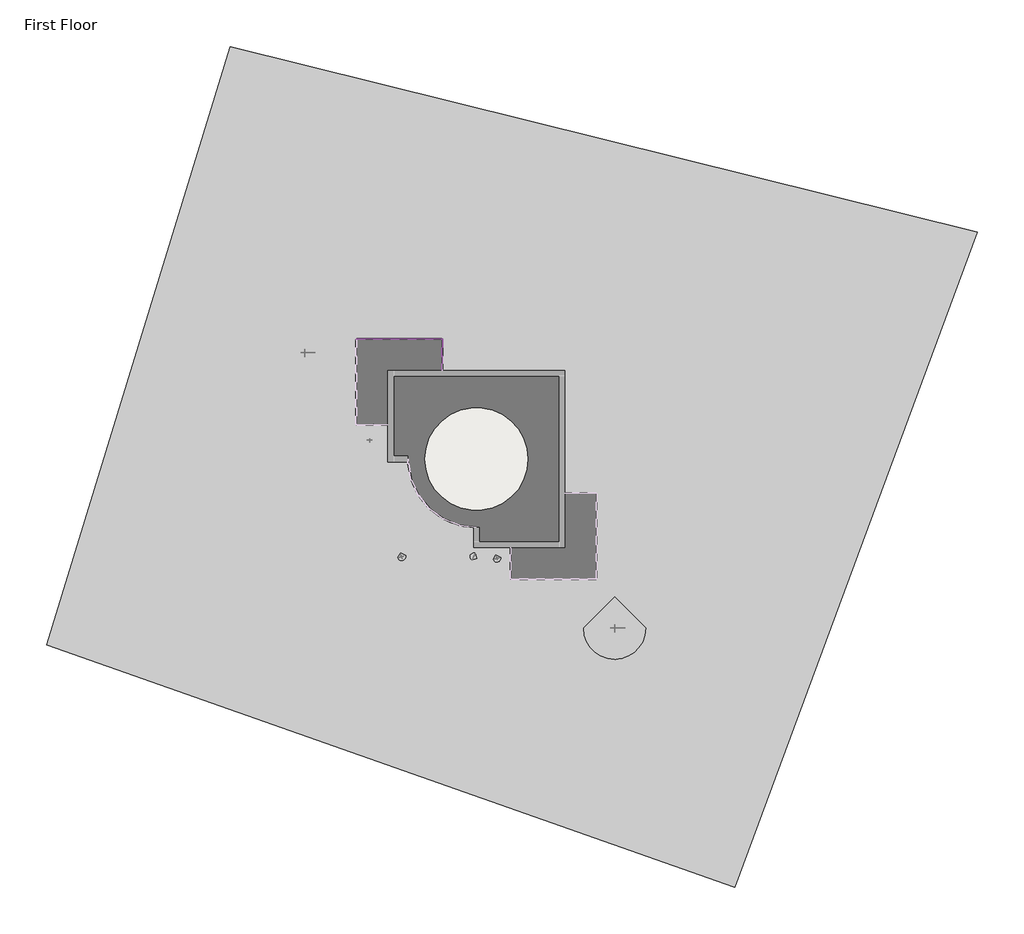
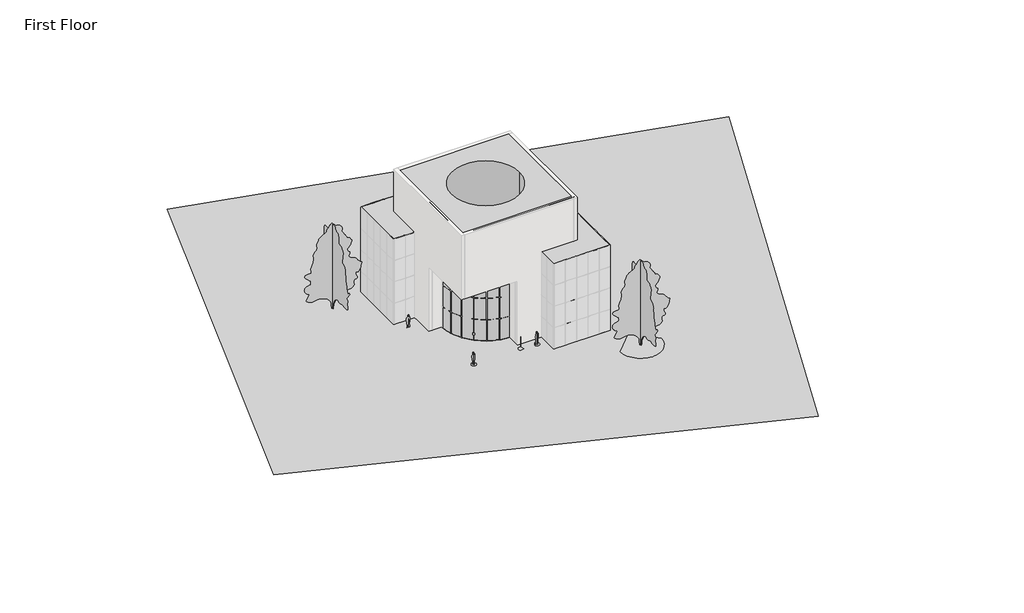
# One storey, part 4 of 4: 73 members, 24 plates, 7 proxies, 4 slabs, 2 geographic elements.
"""IFC4 building model written with IfcOpenShell, lengths in millimetres."""

from ifc_helpers import new_model, si_unit, point, frame, frame_2d, origin, origin_with_axes, place, context, project, spatial, polyline, circle_curve, trimmed, segment, composite_curve, outline, extrude, triangles, transform, mapped, element, save
from ifc_brep_helpers import plane_surface, cylinder_surface, revolved_surface, advanced_brep
from components import rpc_female_aec5a013, rpc_male_28878092, rpc_male_04e7faa4, rpc_tree_deciduous_lombardy_poplar_40_01077960, member_5e617a80, member_74941792, member_cbdb9076, member_7e523723, member_9fd3d903, member_6604d1e0, member_e0356dda, member_be0b070d, system_panel_glazed_9b7d687a, system_panel_glazed_9a901b4a, system_panel_glazed_2d5e1d3d, system_panel_glazed_37964ea6

model = new_model("IFC4")

# Units and contexts
model_context = context("Model", 3, world=origin())
ifc_project = project(units=[si_unit("LENGTHUNIT", "METRE", prefix="MILLI")], contexts=[model_context])

# Site, building, storey
site = spatial("IfcSite", under=ifc_project)
building = spatial("IfcBuilding", under=site)
storey = spatial("IfcBuildingStorey", under=building, Name="First Floor", Elevation=0.0)

# Proxies
placement = place(None, origin())
element("IfcBuildingElementProxy", 1, Name="Building Element Proxy", at=placement, inside=storey, context=model_context, shape_type="Tessellation", body=[
    triangles([(-24363.912854, 35996.493512, 0.0), (42060.135022, 19487.5930573, 0.0), (20501.4532654, -38779.1143616, 0.0), (-40678.5914429, -17220.432605, 0.0)], [[1, 4, 3], [3, 2, 1]], closed=False),
])
element("IfcBuildingElementProxy", 2, Name="Central Hall : Central Hall", ObjectType="Central Hall : Central Hall", at=placement, inside=storey, context=model_context, shape_type="AdvancedBrep", body=[
    advanced_brep(
    [(5148.8943843, 6934.0139224, 18288.0), (-10091.1056157, 6934.0139224, 18288.0), (-10091.1056157, -8305.9860776, 18288.0), (5148.8943843, -8305.9860776, 18288.0), (2100.8943843, -685.9860776, 18288.0), (-7043.1056157, -685.9860776, 18288.0), (5148.8943843, 6934.0139224, 0.0), (5148.8943843, -8305.9860776, 0.0), (-2471.1056157, -8305.9860776, 0.0), (-2471.1056157, -6781.9860776, 0.0), (-8567.1056157, -685.9860776, 0.0), (-10091.1056157, -685.9860776, 0.0), (-10091.1056157, 6934.0139224, 0.0), (-7043.1056157, -685.9860776, 0.0), (2100.8943843, -685.9860776, 0.0), (-10091.1056157, -685.9860776, 9144.0), (-10091.1056157, -8305.9860776, 9144.0), (-2471.1056157, -8305.9860776, 9144.0), (-2471.1056157, -6781.9860776, 9144.0), (-8567.1056157, -685.9860776, 9144.0)],
    [
        (0, 1),
        (1, 2),
        (2, 3),
        (3, 0),
        (4, 5, circle_curve(frame((-2471.1056157, -685.9860776, 18288.0), z_axis=(0.0, 0.0, -1.0), x_axis=(1.0, 0.0, 0.0)), 4572.0)),
        (5, 4, circle_curve(frame((-2471.1056157, -685.9860776, 18288.0), z_axis=(0.0, 0.0, -1.0), x_axis=(1.0, 0.0, 0.0)), 4572.0)),
        (6, 7),
        (7, 8),
        (8, 9),
        (9, 10, circle_curve(frame((-2471.1056157, -685.9860776, 0.0), z_axis=(0.0, 0.0, -1.0), x_axis=(1.0, 0.0, 0.0)), 6096.0)),
        (10, 11),
        (11, 12),
        (12, 6),
        (13, 14, circle_curve(frame((-2471.1056157, -685.9860776, 0.0), z_axis=(0.0, 0.0, 1.0), x_axis=(1.0, 0.0, 0.0)), 4572.0)),
        (14, 13, circle_curve(frame((-2471.1056157, -685.9860776, 0.0), z_axis=(0.0, 0.0, 1.0), x_axis=(1.0, 0.0, 0.0)), 4572.0)),
        (0, 6),
        (12, 1),
        (11, 15),
        (15, 16),
        (16, 2),
        (16, 17),
        (17, 8),
        (7, 3),
        (4, 14),
        (13, 5),
        (18, 17),
        (15, 19),
        (19, 18, circle_curve(frame((-2471.1056157, -685.9860776, 9144.0), z_axis=(0.0, 0.0, 1.0), x_axis=(1.0, 0.0, 0.0)), 6096.0)),
        (19, 10),
        (9, 18),
    ],
    [
        plane_surface(frame((-10091.1056157, 6934.0139224, 18288.0), z_axis=(0.0, 0.0, 1.0), x_axis=(-1.0, 0.0, 0.0))),
        plane_surface(frame((-10091.1056157, 6934.0139224, 0.0), z_axis=(0.0, 0.0, -1.0), x_axis=(1.0, 0.0, 0.0))),
        plane_surface(frame((5148.8943843, 6934.0139224, 18288.0), z_axis=(0.0, 1.0, 0.0), x_axis=(0.0, 0.0, -1.0))),
        plane_surface(frame((-10091.1056157, 6934.0139224, 18288.0), z_axis=(-1.0, 0.0, 0.0), x_axis=(0.0, 0.0, -1.0))),
        plane_surface(frame((-10091.1056157, -8305.9860776, 18288.0), z_axis=(0.0, -1.0, 0.0), x_axis=(0.0, 0.0, -1.0))),
        plane_surface(frame((5148.8943843, -8305.9860776, 18288.0), z_axis=(1.0, 0.0, 0.0), x_axis=(0.0, 0.0, -1.0))),
        revolved_surface(polyline([(2100.8943843, -685.9860776, 18288.0), (2100.8943843, -685.9860776, 0.0)]), (-2471.1056157, -685.9860776, 0.0), (0.0, 0.0, 1.0)),
        plane_surface(frame((3624.8943843, -685.9860776, 9144.0), z_axis=(0.0, 0.0, -1.0), x_axis=(0.0, -1.0, 0.0))),
        cylinder_surface(frame((-2471.1056157, -685.9860776, 0.0), z_axis=(0.0, 0.0, -1.0), x_axis=(1.0, 0.0, 0.0)), 6096.0),
        plane_surface(frame((-8567.1056157, -685.9860776, 9144.0), z_axis=(0.0, -1.0, 0.0), x_axis=(0.0, 0.0, -1.0))),
        plane_surface(frame((-2471.1056157, -8305.9860776, 9144.0), z_axis=(-1.0, 0.0, 0.0), x_axis=(0.0, 0.0, -1.0))),
    ],
    [
        (0, [[1, 2, 3, 4], [5, 6]]),
        (1, [[7, 8, 9, 10, 11, 12, 13], [14, 15]]),
        (2, [[-1, 16, -13, 17]]),
        (3, [[-2, -17, -12, 18, 19, 20]]),
        (4, [[-3, -20, 21, 22, -8, 23]]),
        (5, [[-4, -23, -7, -16]]),
        (6, [[24, -14, 25, -5]]),
        (6, [[-24, -6, -25, -15]]),
        (7, [[26, -21, -19, 27, 28]]),
        (8, [[-28, 29, -10, 30]]),
        (9, [[-27, -18, -11, -29]]),
        (10, [[-26, -30, -9, -22]]),
    ],
),
])
rpc_female_shape = rpc_female_aec5a013(model_context)
element("IfcBuildingElementProxy", 3, Name="RPC Female : Lisa", ObjectType="RPC Female : Lisa", at=placement, inside=storey, context=model_context, shape_type="MappedRepresentation", body=[
    mapped(rpc_female_shape, transform((-2715.5806157, -9369.6110776, 0.0), x_axis=(0.4705781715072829, 0.8823583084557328, 0.0), y_axis=(-0.8823583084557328, 0.4705781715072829, 0.0), z_axis=(0.0, 0.0, 1.0))),
])
rpc_male_shape = rpc_male_28878092(model_context)
element("IfcBuildingElementProxy", 4, Name="RPC Male : Dwayne", ObjectType="RPC Male : Dwayne", at=placement, inside=storey, context=model_context, shape_type="MappedRepresentation", body=[
    mapped(rpc_male_shape, transform((-11971.8346779, 990.4139224, 0.0), x_axis=(1.0, 0.0, 0.0), y_axis=(0.0, 1.0, 0.0), z_axis=(0.0, 0.0, 1.0))),
])
element("IfcBuildingElementProxy", 5, Name="RPC Male : Dwayne", ObjectType="RPC Male : Dwayne", at=placement, inside=storey, context=model_context, shape_type="MappedRepresentation", body=[
    mapped(rpc_male_shape, transform((-636.197019, -9522.0110776, 0.0), x_axis=(-0.9659258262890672, -0.2588190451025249, 0.0), y_axis=(0.2588190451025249, -0.9659258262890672, 0.0), z_axis=(0.0, 0.0, 1.0))),
])
rpc_male_2_shape = rpc_male_04e7faa4(model_context)
element("IfcBuildingElementProxy", 6, Name="RPC Male : Jay", ObjectType="RPC Male : Jay", at=placement, inside=storey, context=model_context, shape_type="MappedRepresentation", body=[
    mapped(rpc_male_2_shape, transform((-9110.0182745, -9369.6110776, 0.0), x_axis=(-0.9659258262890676, -0.2588190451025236, 0.0), y_axis=(0.2588190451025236, -0.9659258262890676, 0.0), z_axis=(0.0, 0.0, 1.0))),
])
element("IfcBuildingElementProxy", 7, Name="Wings : Wings", ObjectType="Wings : Wings", at=placement, inside=storey, context=model_context, shape_type="SweptSolid", body=[
    extrude(outline(polyline([(8196.8943843, -3733.9860776), (8196.8943843, -11353.9860776), (576.8943843, -11353.9860776), (576.8943843, -8305.9860776), (5148.8943843, -8305.9860776), (5148.8943843, -3733.9860776), (8196.8943843, -3733.9860776)])), origin_with_axes(), (0.0, 0.0, 1.0), 12192.0),
    extrude(outline(polyline([(-5519.1056157, 9982.0139224), (-5519.1056157, 6934.0139224), (-10091.1056157, 6934.0139224), (-10091.1056157, 2362.0139224), (-13139.1056157, 2362.0139224), (-13139.1056157, 9982.0139224), (-5519.1056157, 9982.0139224)])), origin_with_axes(), (0.0, 0.0, 1.0), 12192.0),
])

# Geographic elements
rpc_tree_deciduous_lombardy_poplar_40_shape = rpc_tree_deciduous_lombardy_poplar_40_01077960(model_context)
element("IfcGeographicElement", 8, ObjectType="RPC Tree - Deciduous : Lombardy Poplar - 40'", at=placement, inside=storey, context=model_context, shape_type="MappedRepresentation", body=[
    mapped(rpc_tree_deciduous_lombardy_poplar_40_shape, transform((-17711.1056157, 8762.8139224, 0.0), x_axis=(1.0, 0.0, 0.0), y_axis=(0.0, 1.0, 0.0), z_axis=(0.0, 0.0, 1.0))),
])
element("IfcGeographicElement", 9, ObjectType="RPC Tree - Deciduous : Lombardy Poplar - 40'", at=placement, inside=storey, context=model_context, shape_type="MappedRepresentation", body=[
    mapped(rpc_tree_deciduous_lombardy_poplar_40_shape, transform((9813.886646, -15719.3896773, 0.0), x_axis=(1.0, 0.0, 0.0), y_axis=(0.0, 1.0, 0.0), z_axis=(0.0, 0.0, 1.0))),
])

# Members
member_shape = member_5e617a80(model_context)
element("IfcMember", 10, ObjectType="Rectangular Mullion : 1\" Square", at=placement, inside=storey, context=model_context, shape_type="MappedRepresentation", body=[
    mapped(member_shape, transform((-7030.4056157, 9982.0139224, 3048.0), x_axis=(0.0, 0.0, 1.0), y_axis=(0.0, 1.0, 0.0), z_axis=(-1.0, 0.0, 0.0))),
])
element("IfcMember", 11, ObjectType="Rectangular Mullion : 1\" Square", at=placement, inside=storey, context=model_context, shape_type="MappedRepresentation", body=[
    mapped(member_shape, transform((-13113.7056157, 9982.0139224, 3048.0), x_axis=(0.0, 0.0, 1.0), y_axis=(0.0, 1.0, 0.0), z_axis=(-1.0, 0.0, 0.0))),
])
element("IfcMember", 12, ObjectType="Rectangular Mullion : 1\" Square", at=placement, inside=storey, context=model_context, shape_type="MappedRepresentation", body=[
    mapped(member_shape, transform((-7030.4056157, 9982.0139224, 6096.0), x_axis=(0.0, 0.0, 1.0), y_axis=(0.0, 1.0, 0.0), z_axis=(-1.0, 0.0, 0.0))),
])
element("IfcMember", 13, ObjectType="Rectangular Mullion : 1\" Square", at=placement, inside=storey, context=model_context, shape_type="MappedRepresentation", body=[
    mapped(member_shape, transform((-13113.7056157, 9982.0139224, 6096.0), x_axis=(0.0, 0.0, 1.0), y_axis=(0.0, 1.0, 0.0), z_axis=(-1.0, 0.0, 0.0))),
])
element("IfcMember", 14, ObjectType="Rectangular Mullion : 1\" Square", at=placement, inside=storey, context=model_context, shape_type="MappedRepresentation", body=[
    mapped(member_shape, transform((-7030.4056157, 9982.0139224, 9144.0), x_axis=(0.0, 0.0, 1.0), y_axis=(0.0, 1.0, 0.0), z_axis=(-1.0, 0.0, 0.0))),
])
element("IfcMember", 15, ObjectType="Rectangular Mullion : 1\" Square", at=placement, inside=storey, context=model_context, shape_type="MappedRepresentation", body=[
    mapped(member_shape, transform((-13113.7056157, 9982.0139224, 9144.0), x_axis=(0.0, 0.0, 1.0), y_axis=(0.0, 1.0, 0.0), z_axis=(-1.0, 0.0, 0.0))),
])
member_2_shape = member_74941792(model_context)
element("IfcMember", 16, ObjectType="Rectangular Mullion : 1\" Square", at=placement, inside=storey, context=model_context, shape_type="MappedRepresentation", body=[
    mapped(member_2_shape, transform((-13113.7056157, 9982.0139224, 12192.0), x_axis=(0.0, 0.0, 1.0), y_axis=(0.0, 1.0, 0.0), z_axis=(-1.0, 0.0, 0.0))),
])
element("IfcMember", 17, ObjectType="Rectangular Mullion : 1\" Square", at=placement, inside=storey, context=model_context, shape_type="MappedRepresentation", body=[
    mapped(member_2_shape, transform((-7030.4056157, 9982.0139224, 12192.0), x_axis=(0.0, 0.0, 1.0), y_axis=(0.0, 1.0, 0.0), z_axis=(-1.0, 0.0, 0.0))),
])
member_3_shape = member_cbdb9076(model_context)
element("IfcMember", 18, ObjectType="Rectangular Mullion : 1\" Square", at=placement, inside=storey, context=model_context, shape_type="MappedRepresentation", body=[
    mapped(member_3_shape, transform((-8567.1056157, 9982.0139224, 6096.0), x_axis=(-1.0, 0.0, 0.0), y_axis=(0.0, 1.0, 0.0), z_axis=(0.0, 0.0, -1.0))),
])
element("IfcMember", 19, ObjectType="Rectangular Mullion : 1\" Square", at=placement, inside=storey, context=model_context, shape_type="MappedRepresentation", body=[
    mapped(member_3_shape, transform((-10091.1056157, 9982.0139224, 3048.0), x_axis=(-1.0, 0.0, 0.0), y_axis=(0.0, 1.0, 0.0), z_axis=(0.0, 0.0, -1.0))),
])
element("IfcMember", 20, ObjectType="Rectangular Mullion : 1\" Square", at=placement, inside=storey, context=model_context, shape_type="MappedRepresentation", body=[
    mapped(member_3_shape, transform((-10091.1056157, 9982.0139224, 6096.0), x_axis=(-1.0, 0.0, 0.0), y_axis=(0.0, 1.0, 0.0), z_axis=(0.0, 0.0, -1.0))),
])
element("IfcMember", 21, ObjectType="Rectangular Mullion : 1\" Square", at=placement, inside=storey, context=model_context, shape_type="MappedRepresentation", body=[
    mapped(member_3_shape, transform((-11615.1056157, 9982.0139224, 3048.0), x_axis=(-1.0, 0.0, 0.0), y_axis=(0.0, 1.0, 0.0), z_axis=(0.0, 0.0, -1.0))),
])
element("IfcMember", 22, ObjectType="Rectangular Mullion : 1\" Square", at=placement, inside=storey, context=model_context, shape_type="MappedRepresentation", body=[
    mapped(member_3_shape, transform((-11615.1056157, 9982.0139224, 6096.0), x_axis=(-1.0, 0.0, 0.0), y_axis=(0.0, 1.0, 0.0), z_axis=(0.0, 0.0, -1.0))),
])
element("IfcMember", 23, ObjectType="Rectangular Mullion : 1\" Square", at=placement, inside=storey, context=model_context, shape_type="MappedRepresentation", body=[
    mapped(member_3_shape, transform((-7043.1056157, 9982.0139224, 3048.0), x_axis=(-1.0, 0.0, 0.0), y_axis=(0.0, 1.0, 0.0), z_axis=(0.0, 0.0, -1.0))),
])
element("IfcMember", 24, ObjectType="Rectangular Mullion : 1\" Square", at=placement, inside=storey, context=model_context, shape_type="MappedRepresentation", body=[
    mapped(member_3_shape, transform((-7043.1056157, 9982.0139224, 6096.0), x_axis=(-1.0, 0.0, 0.0), y_axis=(0.0, 1.0, 0.0), z_axis=(0.0, 0.0, -1.0))),
])
element("IfcMember", 25, ObjectType="Rectangular Mullion : 1\" Square", at=placement, inside=storey, context=model_context, shape_type="MappedRepresentation", body=[
    mapped(member_3_shape, transform((-8567.1056157, 9982.0139224, 3048.0), x_axis=(-1.0, 0.0, 0.0), y_axis=(0.0, 1.0, 0.0), z_axis=(0.0, 0.0, -1.0))),
])
element("IfcMember", 26, ObjectType="Rectangular Mullion : 1\" Square", at=placement, inside=storey, context=model_context, shape_type="MappedRepresentation", body=[
    mapped(member_3_shape, transform((-5519.1056157, 9978.8389224, 3048.0), x_axis=(0.0, 1.0, 0.0), y_axis=(1.0, 0.0, 0.0), z_axis=(0.0, 0.0, -1.0))),
])
element("IfcMember", 27, ObjectType="Rectangular Mullion : 1\" Square", at=placement, inside=storey, context=model_context, shape_type="MappedRepresentation", body=[
    mapped(member_3_shape, transform((-5519.1056157, 9978.8389224, 6096.0), x_axis=(0.0, 1.0, 0.0), y_axis=(1.0, 0.0, 0.0), z_axis=(0.0, 0.0, -1.0))),
])
element("IfcMember", 28, ObjectType="Rectangular Mullion : 1\" Square", at=placement, inside=storey, context=model_context, shape_type="MappedRepresentation", body=[
    mapped(member_3_shape, transform((-5519.1056157, 8454.8389224, 3048.0), x_axis=(0.0, 1.0, 0.0), y_axis=(1.0, 0.0, 0.0), z_axis=(0.0, 0.0, -1.0))),
])
element("IfcMember", 29, ObjectType="Rectangular Mullion : 1\" Square", at=placement, inside=storey, context=model_context, shape_type="MappedRepresentation", body=[
    mapped(member_3_shape, transform((-5519.1056157, 8454.8389224, 6096.0), x_axis=(0.0, 1.0, 0.0), y_axis=(1.0, 0.0, 0.0), z_axis=(0.0, 0.0, -1.0))),
])
element("IfcMember", 30, ObjectType="Rectangular Mullion : 1\" Square", at=placement, inside=storey, context=model_context, shape_type="MappedRepresentation", body=[
    mapped(member_3_shape, transform((-8567.1056157, 9982.0139224, 9144.0), x_axis=(-1.0, 0.0, 0.0), y_axis=(0.0, 1.0, 0.0), z_axis=(0.0, 0.0, -1.0))),
])
element("IfcMember", 31, ObjectType="Rectangular Mullion : 1\" Square", at=placement, inside=storey, context=model_context, shape_type="MappedRepresentation", body=[
    mapped(member_3_shape, transform((-10091.1056157, 9982.0139224, 9144.0), x_axis=(-1.0, 0.0, 0.0), y_axis=(0.0, 1.0, 0.0), z_axis=(0.0, 0.0, -1.0))),
])
element("IfcMember", 32, ObjectType="Rectangular Mullion : 1\" Square", at=placement, inside=storey, context=model_context, shape_type="MappedRepresentation", body=[
    mapped(member_3_shape, transform((-11615.1056157, 9982.0139224, 9144.0), x_axis=(-1.0, 0.0, 0.0), y_axis=(0.0, 1.0, 0.0), z_axis=(0.0, 0.0, -1.0))),
])
element("IfcMember", 33, ObjectType="Rectangular Mullion : 1\" Square", at=placement, inside=storey, context=model_context, shape_type="MappedRepresentation", body=[
    mapped(member_3_shape, transform((-7043.1056157, 9982.0139224, 9144.0), x_axis=(-1.0, 0.0, 0.0), y_axis=(0.0, 1.0, 0.0), z_axis=(0.0, 0.0, -1.0))),
])
element("IfcMember", 34, ObjectType="Rectangular Mullion : 1\" Square", at=placement, inside=storey, context=model_context, shape_type="MappedRepresentation", body=[
    mapped(member_3_shape, transform((-5519.1056157, 9978.8389224, 9144.0), x_axis=(0.0, 1.0, 0.0), y_axis=(1.0, 0.0, 0.0), z_axis=(0.0, 0.0, -1.0))),
])
element("IfcMember", 35, ObjectType="Rectangular Mullion : 1\" Square", at=placement, inside=storey, context=model_context, shape_type="MappedRepresentation", body=[
    mapped(member_3_shape, transform((-5519.1056157, 8454.8389224, 9144.0), x_axis=(0.0, 1.0, 0.0), y_axis=(1.0, 0.0, 0.0), z_axis=(0.0, 0.0, -1.0))),
])
element("IfcMember", 36, ObjectType="Rectangular Mullion : 1\" Square", at=placement, inside=storey, context=model_context, shape_type="MappedRepresentation", body=[
    mapped(member_3_shape, transform((-7043.1056157, 9982.0139224, 0.0), x_axis=(-1.0, 0.0, 0.0), y_axis=(0.0, 1.0, 0.0), z_axis=(0.0, 0.0, -1.0))),
])
element("IfcMember", 37, ObjectType="Rectangular Mullion : 1\" Square", at=placement, inside=storey, context=model_context, shape_type="MappedRepresentation", body=[
    mapped(member_3_shape, transform((-8567.1056157, 9982.0139224, 0.0), x_axis=(-1.0, 0.0, 0.0), y_axis=(0.0, 1.0, 0.0), z_axis=(0.0, 0.0, -1.0))),
])
element("IfcMember", 38, ObjectType="Rectangular Mullion : 1\" Square", at=placement, inside=storey, context=model_context, shape_type="MappedRepresentation", body=[
    mapped(member_3_shape, transform((-10091.1056157, 9982.0139224, 0.0), x_axis=(-1.0, 0.0, 0.0), y_axis=(0.0, 1.0, 0.0), z_axis=(0.0, 0.0, -1.0))),
])
element("IfcMember", 39, ObjectType="Rectangular Mullion : 1\" Square", at=placement, inside=storey, context=model_context, shape_type="MappedRepresentation", body=[
    mapped(member_3_shape, transform((-11615.1056157, 9982.0139224, 0.0), x_axis=(-1.0, 0.0, 0.0), y_axis=(0.0, 1.0, 0.0), z_axis=(0.0, 0.0, -1.0))),
])
element("IfcMember", 40, ObjectType="Rectangular Mullion : 1\" Square", at=placement, inside=storey, context=model_context, shape_type="MappedRepresentation", body=[
    mapped(member_3_shape, transform((-5519.1056157, 9978.8389224, 0.0), x_axis=(0.0, 1.0, 0.0), y_axis=(1.0, 0.0, 0.0), z_axis=(0.0, 0.0, -1.0))),
])
element("IfcMember", 41, ObjectType="Rectangular Mullion : 1\" Square", at=placement, inside=storey, context=model_context, shape_type="MappedRepresentation", body=[
    mapped(member_3_shape, transform((-5519.1056157, 8454.8389224, 0.0), x_axis=(0.0, 1.0, 0.0), y_axis=(1.0, 0.0, 0.0), z_axis=(0.0, 0.0, -1.0))),
])
element("IfcMember", 42, ObjectType="Rectangular Mullion : 1\" Square", at=placement, inside=storey, context=model_context, shape_type="MappedRepresentation", body=[
    mapped(member_2_shape, transform((-5544.5056157, 9982.0139224, 0.0), x_axis=(0.0, 0.0, -1.0), y_axis=(0.0, 1.0, 0.0), z_axis=(1.0, 0.0, 0.0))),
])
element("IfcMember", 43, ObjectType="Rectangular Mullion : 1\" Square", at=placement, inside=storey, context=model_context, shape_type="MappedRepresentation", body=[
    mapped(member_2_shape, transform((-11627.8056157, 9982.0139224, 0.0), x_axis=(0.0, 0.0, -1.0), y_axis=(0.0, 1.0, 0.0), z_axis=(1.0, 0.0, 0.0))),
])
member_4_shape = member_7e523723(model_context)
element("IfcMember", 44, ObjectType="Rectangular Mullion : 1\" Square", at=placement, inside=storey, context=model_context, shape_type="MappedRepresentation", body=[
    mapped(member_4_shape, transform((-5519.1056157, 9982.0139224, 12192.0), x_axis=(1.0, 0.0, 0.0), y_axis=(0.0, 1.0, 0.0), z_axis=(0.0, 0.0, 1.0))),
])
element("IfcMember", 45, ObjectType="Rectangular Mullion : 1\" Square", at=placement, inside=storey, context=model_context, shape_type="MappedRepresentation", body=[
    mapped(member_4_shape, transform((-13139.1056157, 9982.0139224, 3048.0), x_axis=(-1.0, 0.0, 0.0), y_axis=(0.0, 1.0, 0.0), z_axis=(0.0, 0.0, -1.0))),
])
element("IfcMember", 46, ObjectType="Rectangular Mullion : 1\" Square", at=placement, inside=storey, context=model_context, shape_type="MappedRepresentation", body=[
    mapped(member_4_shape, transform((-13139.1056157, 9982.0139224, 6096.0), x_axis=(-1.0, 0.0, 0.0), y_axis=(0.0, 1.0, 0.0), z_axis=(0.0, 0.0, -1.0))),
])
element("IfcMember", 47, ObjectType="Rectangular Mullion : 1\" Square", at=placement, inside=storey, context=model_context, shape_type="MappedRepresentation", body=[
    mapped(member_4_shape, transform((-13139.1056157, 9982.0139224, 9144.0), x_axis=(-1.0, 0.0, 0.0), y_axis=(0.0, 1.0, 0.0), z_axis=(0.0, 0.0, -1.0))),
])
element("IfcMember", 48, ObjectType="Rectangular Mullion : 1\" Square", at=placement, inside=storey, context=model_context, shape_type="MappedRepresentation", body=[
    mapped(member_4_shape, transform((-13139.1056157, 9982.0139224, 3048.0), x_axis=(0.0, 1.0, 0.0), y_axis=(-1.0, 0.0, 0.0), z_axis=(0.0, 0.0, 1.0))),
])
element("IfcMember", 49, ObjectType="Rectangular Mullion : 1\" Square", at=placement, inside=storey, context=model_context, shape_type="MappedRepresentation", body=[
    mapped(member_4_shape, transform((-5519.1056157, 9982.0139224, 3048.0), x_axis=(1.0, 0.0, 0.0), y_axis=(0.0, 1.0, 0.0), z_axis=(0.0, 0.0, 1.0))),
])
element("IfcMember", 50, ObjectType="Rectangular Mullion : 1\" Square", at=placement, inside=storey, context=model_context, shape_type="MappedRepresentation", body=[
    mapped(member_4_shape, transform((-13139.1056157, 9982.0139224, 6096.0), x_axis=(0.0, 1.0, 0.0), y_axis=(-1.0, 0.0, 0.0), z_axis=(0.0, 0.0, 1.0))),
])
element("IfcMember", 51, ObjectType="Rectangular Mullion : 1\" Square", at=placement, inside=storey, context=model_context, shape_type="MappedRepresentation", body=[
    mapped(member_4_shape, transform((-13139.1056157, 9982.0139224, 9144.0), x_axis=(0.0, 1.0, 0.0), y_axis=(-1.0, 0.0, 0.0), z_axis=(0.0, 0.0, 1.0))),
])
element("IfcMember", 52, ObjectType="Rectangular Mullion : 1\" Square", at=placement, inside=storey, context=model_context, shape_type="MappedRepresentation", body=[
    mapped(member_4_shape, transform((-5519.1056157, 9982.0139224, 6096.0), x_axis=(1.0, 0.0, 0.0), y_axis=(0.0, 1.0, 0.0), z_axis=(0.0, 0.0, 1.0))),
])
element("IfcMember", 53, ObjectType="Rectangular Mullion : 1\" Square", at=placement, inside=storey, context=model_context, shape_type="MappedRepresentation", body=[
    mapped(member_4_shape, transform((-5519.1056157, 9982.0139224, 9144.0), x_axis=(1.0, 0.0, 0.0), y_axis=(0.0, 1.0, 0.0), z_axis=(0.0, 0.0, 1.0))),
])
element("IfcMember", 54, ObjectType="Rectangular Mullion : 1\" Square", at=placement, inside=storey, context=model_context, shape_type="MappedRepresentation", body=[
    mapped(member_4_shape, transform((-13139.1056157, 9982.0139224, 0.0), x_axis=(-1.0, 0.0, 0.0), y_axis=(0.0, 1.0, 0.0), z_axis=(0.0, 0.0, -1.0))),
])
member_5_shape = member_9fd3d903(model_context)
element("IfcMember", 55, ObjectType="Rectangular Mullion : 1\" Square", at=placement, inside=storey, context=model_context, shape_type="MappedRepresentation", body=[
    mapped(member_5_shape, transform((-8554.4056157, 9982.0139224, 3048.0), x_axis=(0.0, 0.0, 1.0), y_axis=(0.0, 1.0, 0.0), z_axis=(-1.0, 0.0, 0.0))),
])
element("IfcMember", 56, ObjectType="Rectangular Mullion : 1\" Square", at=placement, inside=storey, context=model_context, shape_type="MappedRepresentation", body=[
    mapped(member_5_shape, transform((-10078.4056157, 9982.0139224, 3048.0), x_axis=(0.0, 0.0, 1.0), y_axis=(0.0, 1.0, 0.0), z_axis=(-1.0, 0.0, 0.0))),
])
element("IfcMember", 57, ObjectType="Rectangular Mullion : 1\" Square", at=placement, inside=storey, context=model_context, shape_type="MappedRepresentation", body=[
    mapped(member_5_shape, transform((-11602.4056157, 9982.0139224, 3048.0), x_axis=(0.0, 0.0, 1.0), y_axis=(0.0, 1.0, 0.0), z_axis=(-1.0, 0.0, 0.0))),
])
element("IfcMember", 58, ObjectType="Rectangular Mullion : 1\" Square", at=placement, inside=storey, context=model_context, shape_type="MappedRepresentation", body=[
    mapped(member_5_shape, transform((-8554.4056157, 9982.0139224, 6096.0), x_axis=(0.0, 0.0, 1.0), y_axis=(0.0, 1.0, 0.0), z_axis=(-1.0, 0.0, 0.0))),
])
element("IfcMember", 59, ObjectType="Rectangular Mullion : 1\" Square", at=placement, inside=storey, context=model_context, shape_type="MappedRepresentation", body=[
    mapped(member_5_shape, transform((-10078.4056157, 9982.0139224, 6096.0), x_axis=(0.0, 0.0, 1.0), y_axis=(0.0, 1.0, 0.0), z_axis=(-1.0, 0.0, 0.0))),
])
element("IfcMember", 60, ObjectType="Rectangular Mullion : 1\" Square", at=placement, inside=storey, context=model_context, shape_type="MappedRepresentation", body=[
    mapped(member_5_shape, transform((-11602.4056157, 9982.0139224, 6096.0), x_axis=(0.0, 0.0, 1.0), y_axis=(0.0, 1.0, 0.0), z_axis=(-1.0, 0.0, 0.0))),
])
element("IfcMember", 61, ObjectType="Rectangular Mullion : 1\" Square", at=placement, inside=storey, context=model_context, shape_type="MappedRepresentation", body=[
    mapped(member_5_shape, transform((-8554.4056157, 9982.0139224, 9144.0), x_axis=(0.0, 0.0, 1.0), y_axis=(0.0, 1.0, 0.0), z_axis=(-1.0, 0.0, 0.0))),
])
element("IfcMember", 62, ObjectType="Rectangular Mullion : 1\" Square", at=placement, inside=storey, context=model_context, shape_type="MappedRepresentation", body=[
    mapped(member_5_shape, transform((-10078.4056157, 9982.0139224, 9144.0), x_axis=(0.0, 0.0, 1.0), y_axis=(0.0, 1.0, 0.0), z_axis=(-1.0, 0.0, 0.0))),
])
element("IfcMember", 63, ObjectType="Rectangular Mullion : 1\" Square", at=placement, inside=storey, context=model_context, shape_type="MappedRepresentation", body=[
    mapped(member_5_shape, transform((-11602.4056157, 9982.0139224, 9144.0), x_axis=(0.0, 0.0, 1.0), y_axis=(0.0, 1.0, 0.0), z_axis=(-1.0, 0.0, 0.0))),
])
element("IfcMember", 64, ObjectType="Rectangular Mullion : 1\" Square", at=placement, inside=storey, context=model_context, shape_type="MappedRepresentation", body=[
    mapped(member_5_shape, transform((-5519.1056157, 9966.1389224, 3048.0), x_axis=(0.0, 0.0, 1.0), y_axis=(1.0, 0.0, 0.0), z_axis=(0.0, 1.0, 0.0))),
])
element("IfcMember", 65, ObjectType="Rectangular Mullion : 1\" Square", at=placement, inside=storey, context=model_context, shape_type="MappedRepresentation", body=[
    mapped(member_5_shape, transform((-5519.1056157, 9966.1389224, 6096.0), x_axis=(0.0, 0.0, 1.0), y_axis=(1.0, 0.0, 0.0), z_axis=(0.0, 1.0, 0.0))),
])
element("IfcMember", 66, ObjectType="Rectangular Mullion : 1\" Square", at=placement, inside=storey, context=model_context, shape_type="MappedRepresentation", body=[
    mapped(member_5_shape, transform((-5519.1056157, 9966.1389224, 9144.0), x_axis=(0.0, 0.0, 1.0), y_axis=(1.0, 0.0, 0.0), z_axis=(0.0, 1.0, 0.0))),
])
member_6_shape = member_6604d1e0(model_context)
element("IfcMember", 67, ObjectType="Rectangular Mullion : 1\" Square", at=placement, inside=storey, context=model_context, shape_type="MappedRepresentation", body=[
    mapped(member_6_shape, transform((-8554.4056157, 9982.0139224, 12192.0), x_axis=(0.0, 0.0, 1.0), y_axis=(0.0, 1.0, 0.0), z_axis=(-1.0, 0.0, 0.0))),
])
element("IfcMember", 68, ObjectType="Rectangular Mullion : 1\" Square", at=placement, inside=storey, context=model_context, shape_type="MappedRepresentation", body=[
    mapped(member_6_shape, transform((-10078.4056157, 9982.0139224, 12192.0), x_axis=(0.0, 0.0, 1.0), y_axis=(0.0, 1.0, 0.0), z_axis=(-1.0, 0.0, 0.0))),
])
element("IfcMember", 69, ObjectType="Rectangular Mullion : 1\" Square", at=placement, inside=storey, context=model_context, shape_type="MappedRepresentation", body=[
    mapped(member_6_shape, transform((-11602.4056157, 9982.0139224, 12192.0), x_axis=(0.0, 0.0, 1.0), y_axis=(0.0, 1.0, 0.0), z_axis=(-1.0, 0.0, 0.0))),
])
element("IfcMember", 70, ObjectType="Rectangular Mullion : 1\" Square", at=placement, inside=storey, context=model_context, shape_type="MappedRepresentation", body=[
    mapped(member_6_shape, transform((-5519.1056157, 9966.1389224, 12192.0), x_axis=(0.0, 0.0, 1.0), y_axis=(1.0, 0.0, 0.0), z_axis=(0.0, 1.0, 0.0))),
])
element("IfcMember", 71, ObjectType="Rectangular Mullion : 1\" Square", at=placement, inside=storey, context=model_context, shape_type="MappedRepresentation", body=[
    mapped(member_6_shape, transform((-7055.8056157, 9982.0139224, 0.0), x_axis=(0.0, 0.0, -1.0), y_axis=(0.0, 1.0, 0.0), z_axis=(1.0, 0.0, 0.0))),
])
element("IfcMember", 72, ObjectType="Rectangular Mullion : 1\" Square", at=placement, inside=storey, context=model_context, shape_type="MappedRepresentation", body=[
    mapped(member_6_shape, transform((-8579.8056157, 9982.0139224, 0.0), x_axis=(0.0, 0.0, -1.0), y_axis=(0.0, 1.0, 0.0), z_axis=(1.0, 0.0, 0.0))),
])
element("IfcMember", 73, ObjectType="Rectangular Mullion : 1\" Square", at=placement, inside=storey, context=model_context, shape_type="MappedRepresentation", body=[
    mapped(member_6_shape, transform((-10103.8056157, 9982.0139224, 0.0), x_axis=(0.0, 0.0, -1.0), y_axis=(0.0, 1.0, 0.0), z_axis=(1.0, 0.0, 0.0))),
])
element("IfcMember", 74, ObjectType="Rectangular Mullion : 1\" Square", at=placement, inside=storey, context=model_context, shape_type="MappedRepresentation", body=[
    mapped(member_6_shape, transform((-5519.1056157, 8467.5389224, 0.0), x_axis=(0.0, 0.0, -1.0), y_axis=(1.0, 0.0, 0.0), z_axis=(0.0, -1.0, 0.0))),
])
member_7_shape = member_e0356dda(model_context)
element("IfcMember", 75, ObjectType="Rectangular Mullion : 1\" Square", at=placement, inside=storey, context=model_context, shape_type="MappedRepresentation", body=[
    mapped(member_7_shape, transform((-5519.1056157, 8442.1389224, 3048.0), x_axis=(0.0, 0.0, 1.0), y_axis=(1.0, 0.0, 0.0), z_axis=(0.0, 1.0, 0.0))),
])
element("IfcMember", 76, ObjectType="Rectangular Mullion : 1\" Square", at=placement, inside=storey, context=model_context, shape_type="MappedRepresentation", body=[
    mapped(member_7_shape, transform((-5519.1056157, 8442.1389224, 6096.0), x_axis=(0.0, 0.0, 1.0), y_axis=(1.0, 0.0, 0.0), z_axis=(0.0, 1.0, 0.0))),
])
element("IfcMember", 77, ObjectType="Rectangular Mullion : 1\" Square", at=placement, inside=storey, context=model_context, shape_type="MappedRepresentation", body=[
    mapped(member_7_shape, transform((-5519.1056157, 8442.1389224, 9144.0), x_axis=(0.0, 0.0, 1.0), y_axis=(1.0, 0.0, 0.0), z_axis=(0.0, 1.0, 0.0))),
])
member_8_shape = member_be0b070d(model_context)
element("IfcMember", 78, ObjectType="Rectangular Mullion : 1\" Square", at=placement, inside=storey, context=model_context, shape_type="MappedRepresentation", body=[
    mapped(member_8_shape, transform((-5519.1056157, 8442.1389224, 12192.0), x_axis=(0.0, 0.0, 1.0), y_axis=(1.0, 0.0, 0.0), z_axis=(0.0, 1.0, 0.0))),
])
element("IfcMember", 79, ObjectType="Rectangular Mullion : 1\" Square", at=placement, inside=storey, context=model_context, shape_type="MappedRepresentation", body=[
    mapped(member_4_shape, transform((-5519.1056157, 9982.0139224, 3048.0), x_axis=(0.0, 1.0, 0.0), y_axis=(1.0, 0.0, 0.0), z_axis=(0.0, 0.0, -1.0))),
])
element("IfcMember", 80, ObjectType="Rectangular Mullion : 1\" Square", at=placement, inside=storey, context=model_context, shape_type="MappedRepresentation", body=[
    mapped(member_4_shape, transform((-5519.1056157, 9982.0139224, 6096.0), x_axis=(0.0, 1.0, 0.0), y_axis=(1.0, 0.0, 0.0), z_axis=(0.0, 0.0, -1.0))),
])
element("IfcMember", 81, ObjectType="Rectangular Mullion : 1\" Square", at=placement, inside=storey, context=model_context, shape_type="MappedRepresentation", body=[
    mapped(member_4_shape, transform((-5519.1056157, 9982.0139224, 9144.0), x_axis=(0.0, 1.0, 0.0), y_axis=(1.0, 0.0, 0.0), z_axis=(0.0, 0.0, -1.0))),
])
element("IfcMember", 82, ObjectType="Rectangular Mullion : 1\" Square", at=placement, inside=storey, context=model_context, shape_type="MappedRepresentation", body=[
    mapped(member_4_shape, transform((-5519.1056157, 9982.0139224, 0.0), x_axis=(0.0, 1.0, 0.0), y_axis=(1.0, 0.0, 0.0), z_axis=(0.0, 0.0, -1.0))),
])

# Plates
system_panel_glazed_shape = system_panel_glazed_9b7d687a(model_context)
element("IfcPlate", 83, ObjectType="System Panel : Glazed", at=placement, inside=storey, context=model_context, shape_type="MappedRepresentation", body=[
    mapped(system_panel_glazed_shape, transform((-6287.4556157, 9982.0139224, 25.4), x_axis=(-1.0, 0.0, 0.0), y_axis=(0.0, -1.0, 0.0), z_axis=(0.0, 0.0, 1.0))),
])
element("IfcPlate", 84, ObjectType="System Panel : Glazed", at=placement, inside=storey, context=model_context, shape_type="MappedRepresentation", body=[
    mapped(system_panel_glazed_shape, transform((-12370.7556157, 9982.0139224, 25.4), x_axis=(-1.0, 0.0, 0.0), y_axis=(0.0, -1.0, 0.0), z_axis=(0.0, 0.0, 1.0))),
])
element("IfcPlate", 85, ObjectType="System Panel : Glazed", at=placement, inside=storey, context=model_context, shape_type="MappedRepresentation", body=[
    mapped(system_panel_glazed_shape, transform((-6287.4556157, 9982.0139224, 9156.7), x_axis=(-1.0, 0.0, 0.0), y_axis=(0.0, -1.0, 0.0), z_axis=(0.0, 0.0, 1.0))),
])
element("IfcPlate", 86, ObjectType="System Panel : Glazed", at=placement, inside=storey, context=model_context, shape_type="MappedRepresentation", body=[
    mapped(system_panel_glazed_shape, transform((-12370.7556157, 9982.0139224, 9156.7), x_axis=(-1.0, 0.0, 0.0), y_axis=(0.0, -1.0, 0.0), z_axis=(0.0, 0.0, 1.0))),
])
system_panel_glazed_2_shape = system_panel_glazed_9a901b4a(model_context)
element("IfcPlate", 87, ObjectType="System Panel : Glazed", at=placement, inside=storey, context=model_context, shape_type="MappedRepresentation", body=[
    mapped(system_panel_glazed_2_shape, transform((-6287.4556157, 9982.0139224, 3060.7), x_axis=(-1.0, 0.0, 0.0), y_axis=(0.0, -1.0, 0.0), z_axis=(0.0, 0.0, 1.0))),
])
element("IfcPlate", 88, ObjectType="System Panel : Glazed", at=placement, inside=storey, context=model_context, shape_type="MappedRepresentation", body=[
    mapped(system_panel_glazed_2_shape, transform((-12370.7556157, 9982.0139224, 3060.7), x_axis=(-1.0, 0.0, 0.0), y_axis=(0.0, -1.0, 0.0), z_axis=(0.0, 0.0, 1.0))),
])
element("IfcPlate", 89, ObjectType="System Panel : Glazed", at=placement, inside=storey, context=model_context, shape_type="MappedRepresentation", body=[
    mapped(system_panel_glazed_2_shape, transform((-6287.4556157, 9982.0139224, 6108.7), x_axis=(-1.0, 0.0, 0.0), y_axis=(0.0, -1.0, 0.0), z_axis=(0.0, 0.0, 1.0))),
])
element("IfcPlate", 90, ObjectType="System Panel : Glazed", at=placement, inside=storey, context=model_context, shape_type="MappedRepresentation", body=[
    mapped(system_panel_glazed_2_shape, transform((-12370.7556157, 9982.0139224, 6108.7), x_axis=(-1.0, 0.0, 0.0), y_axis=(0.0, -1.0, 0.0), z_axis=(0.0, 0.0, 1.0))),
])
system_panel_glazed_3_shape = system_panel_glazed_2d5e1d3d(model_context)
element("IfcPlate", 91, ObjectType="System Panel : Glazed", at=placement, inside=storey, context=model_context, shape_type="MappedRepresentation", body=[
    mapped(system_panel_glazed_3_shape, transform((-7805.1056157, 9982.0139224, 25.4), x_axis=(-1.0, 0.0, 0.0), y_axis=(0.0, -1.0, 0.0), z_axis=(0.0, 0.0, 1.0))),
])
element("IfcPlate", 92, ObjectType="System Panel : Glazed", at=placement, inside=storey, context=model_context, shape_type="MappedRepresentation", body=[
    mapped(system_panel_glazed_3_shape, transform((-9329.1056157, 9982.0139224, 25.4), x_axis=(-1.0, 0.0, 0.0), y_axis=(0.0, -1.0, 0.0), z_axis=(0.0, 0.0, 1.0))),
])
element("IfcPlate", 93, ObjectType="System Panel : Glazed", at=placement, inside=storey, context=model_context, shape_type="MappedRepresentation", body=[
    mapped(system_panel_glazed_3_shape, transform((-10853.1056157, 9982.0139224, 25.4), x_axis=(-1.0, 0.0, 0.0), y_axis=(0.0, -1.0, 0.0), z_axis=(0.0, 0.0, 1.0))),
])
element("IfcPlate", 94, ObjectType="System Panel : Glazed", at=placement, inside=storey, context=model_context, shape_type="MappedRepresentation", body=[
    mapped(system_panel_glazed_3_shape, transform((-7805.1056157, 9982.0139224, 9156.7), x_axis=(-1.0, 0.0, 0.0), y_axis=(0.0, -1.0, 0.0), z_axis=(0.0, 0.0, 1.0))),
])
element("IfcPlate", 95, ObjectType="System Panel : Glazed", at=placement, inside=storey, context=model_context, shape_type="MappedRepresentation", body=[
    mapped(system_panel_glazed_3_shape, transform((-9329.1056157, 9982.0139224, 9156.7), x_axis=(-1.0, 0.0, 0.0), y_axis=(0.0, -1.0, 0.0), z_axis=(0.0, 0.0, 1.0))),
])
element("IfcPlate", 96, ObjectType="System Panel : Glazed", at=placement, inside=storey, context=model_context, shape_type="MappedRepresentation", body=[
    mapped(system_panel_glazed_3_shape, transform((-10853.1056157, 9982.0139224, 9156.7), x_axis=(-1.0, 0.0, 0.0), y_axis=(0.0, -1.0, 0.0), z_axis=(0.0, 0.0, 1.0))),
])
element("IfcPlate", 97, ObjectType="System Panel : Glazed", at=placement, inside=storey, context=model_context, shape_type="MappedRepresentation", body=[
    mapped(system_panel_glazed_3_shape, transform((-5519.1056157, 9216.8389224, 25.4), x_axis=(0.0, 1.0, 0.0), y_axis=(-1.0, 0.0, 0.0), z_axis=(0.0, 0.0, 1.0))),
])
element("IfcPlate", 98, ObjectType="System Panel : Glazed", at=placement, inside=storey, context=model_context, shape_type="MappedRepresentation", body=[
    mapped(system_panel_glazed_3_shape, transform((-5519.1056157, 9216.8389224, 9156.7), x_axis=(0.0, 1.0, 0.0), y_axis=(-1.0, 0.0, 0.0), z_axis=(0.0, 0.0, 1.0))),
])
system_panel_glazed_4_shape = system_panel_glazed_37964ea6(model_context)
element("IfcPlate", 99, ObjectType="System Panel : Glazed", at=placement, inside=storey, context=model_context, shape_type="MappedRepresentation", body=[
    mapped(system_panel_glazed_4_shape, transform((-7805.1056157, 9982.0139224, 3060.7), x_axis=(-1.0, 0.0, 0.0), y_axis=(0.0, -1.0, 0.0), z_axis=(0.0, 0.0, 1.0))),
])
element("IfcPlate", 100, ObjectType="System Panel : Glazed", at=placement, inside=storey, context=model_context, shape_type="MappedRepresentation", body=[
    mapped(system_panel_glazed_4_shape, transform((-9329.1056157, 9982.0139224, 3060.7), x_axis=(-1.0, 0.0, 0.0), y_axis=(0.0, -1.0, 0.0), z_axis=(0.0, 0.0, 1.0))),
])
element("IfcPlate", 101, ObjectType="System Panel : Glazed", at=placement, inside=storey, context=model_context, shape_type="MappedRepresentation", body=[
    mapped(system_panel_glazed_4_shape, transform((-10853.1056157, 9982.0139224, 3060.7), x_axis=(-1.0, 0.0, 0.0), y_axis=(0.0, -1.0, 0.0), z_axis=(0.0, 0.0, 1.0))),
])
element("IfcPlate", 102, ObjectType="System Panel : Glazed", at=placement, inside=storey, context=model_context, shape_type="MappedRepresentation", body=[
    mapped(system_panel_glazed_4_shape, transform((-7805.1056157, 9982.0139224, 6108.7), x_axis=(-1.0, 0.0, 0.0), y_axis=(0.0, -1.0, 0.0), z_axis=(0.0, 0.0, 1.0))),
])
element("IfcPlate", 103, ObjectType="System Panel : Glazed", at=placement, inside=storey, context=model_context, shape_type="MappedRepresentation", body=[
    mapped(system_panel_glazed_4_shape, transform((-9329.1056157, 9982.0139224, 6108.7), x_axis=(-1.0, 0.0, 0.0), y_axis=(0.0, -1.0, 0.0), z_axis=(0.0, 0.0, 1.0))),
])
element("IfcPlate", 104, ObjectType="System Panel : Glazed", at=placement, inside=storey, context=model_context, shape_type="MappedRepresentation", body=[
    mapped(system_panel_glazed_4_shape, transform((-10853.1056157, 9982.0139224, 6108.7), x_axis=(-1.0, 0.0, 0.0), y_axis=(0.0, -1.0, 0.0), z_axis=(0.0, 0.0, 1.0))),
])
element("IfcPlate", 105, ObjectType="System Panel : Glazed", at=placement, inside=storey, context=model_context, shape_type="MappedRepresentation", body=[
    mapped(system_panel_glazed_4_shape, transform((-5519.1056157, 9216.8389224, 3060.7), x_axis=(0.0, 1.0, 0.0), y_axis=(-1.0, 0.0, 0.0), z_axis=(0.0, 0.0, 1.0))),
])
element("IfcPlate", 106, ObjectType="System Panel : Glazed", at=placement, inside=storey, context=model_context, shape_type="MappedRepresentation", body=[
    mapped(system_panel_glazed_4_shape, transform((-5519.1056157, 9216.8389224, 6108.7), x_axis=(0.0, 1.0, 0.0), y_axis=(-1.0, 0.0, 0.0), z_axis=(0.0, 0.0, 1.0))),
])

# Slabs
element("IfcSlab", 107, ObjectType="LW Concrete on Metal Deck", at=placement, inside=storey, context=model_context, shape_type="SweptSolid", body=[
    extrude(outline(composite_curve([segment(polyline([(5148.8943843, 6934.0139224), (5148.8943843, -8305.9860776), (-2471.1056157, -8305.9860776), (-2471.1056157, -6781.9860776)]), True, "CONTINUOUS"), segment(trimmed(circle_curve(frame_2d((-2471.1056157, -685.9860776)), 6096.0), [point((-2471.1056157, -6781.9860776))], [point((-8567.1056157, -685.9860776))], False, "CARTESIAN"), True, "CONTINUOUS"), segment(polyline([(-8567.1056157, -685.9860776), (-10091.1056157, -685.9860776), (-10091.1056157, 6934.0139224), (5148.8943843, 6934.0139224)]), True, "CONTINUOUS")], self_intersect=False)), frame((0.0, 0.0, -104.775), z_axis=(0.0, 0.0, 1.0), x_axis=(1.0, 0.0, 0.0)), (0.0, 0.0, 1.0), 104.775),
])
element("IfcSlab", 108, ObjectType="LW Concrete on Metal Deck", at=placement, inside=storey, context=model_context, shape_type="SweptSolid", body=[
    extrude(outline(polyline([(8196.8943843, -3733.9860776), (8196.8943843, -11353.9860776), (576.8943843, -11353.9860776), (576.8943843, -8305.9860776), (5148.8943843, -8305.9860776), (5148.8943843, -3733.9860776), (8196.8943843, -3733.9860776)])), frame((0.0, 0.0, -104.775), z_axis=(0.0, 0.0, 1.0), x_axis=(1.0, 0.0, 0.0)), (0.0, 0.0, 1.0), 104.775),
    extrude(outline(polyline([(-5519.1056157, 9982.0139224), (-5519.1056157, 6934.0139224), (-10091.1056157, 6934.0139224), (-10091.1056157, 2362.0139224), (-13139.1056157, 2362.0139224), (-13139.1056157, 9982.0139224), (-5519.1056157, 9982.0139224)])), frame((0.0, 0.0, -104.775), z_axis=(0.0, 0.0, 1.0), x_axis=(1.0, 0.0, 0.0)), (0.0, 0.0, 1.0), 104.775),
])
element("IfcSlab", 109, ObjectType="LW Concrete on Metal Deck", at=placement, inside=storey, context=model_context, shape_type="SweptSolid", body=[
    extrude(outline(composite_curve([segment(polyline([(5148.8943843, 6934.0139224), (5148.8943843, -8305.9860776), (-2471.1056157, -8305.9860776), (-2471.1056157, -6781.9860776)]), True, "CONTINUOUS"), segment(trimmed(circle_curve(frame_2d((-2471.1056157, -685.9860776)), 6096.0), [point((-2471.1056157, -6781.9860776))], [point((-8567.1056157, -685.9860776))], False, "CARTESIAN"), True, "CONTINUOUS"), segment(polyline([(-8567.1056157, -685.9860776), (-10091.1056157, -685.9860776), (-10091.1056157, 6934.0139224), (5148.8943843, 6934.0139224)]), True, "CONTINUOUS")], self_intersect=False)), frame((0.0, 0.0, -104.775), z_axis=(0.0, 0.0, 1.0), x_axis=(1.0, 0.0, 0.0)), (0.0, 0.0, 1.0), 104.775),
])
element("IfcSlab", 110, ObjectType="LW Concrete on Metal Deck", at=placement, inside=storey, context=model_context, shape_type="SweptSolid", body=[
    extrude(outline(polyline([(8196.8943843, -3733.9860776), (8196.8943843, -11353.9860776), (576.8943843, -11353.9860776), (576.8943843, -8305.9860776), (5148.8943843, -8305.9860776), (5148.8943843, -3733.9860776), (8196.8943843, -3733.9860776)])), frame((0.0, 0.0, -104.775), z_axis=(0.0, 0.0, 1.0), x_axis=(1.0, 0.0, 0.0)), (0.0, 0.0, 1.0), 104.775),
    extrude(outline(polyline([(-5519.1056157, 9982.0139224), (-5519.1056157, 6934.0139224), (-10091.1056157, 6934.0139224), (-10091.1056157, 2362.0139224), (-13139.1056157, 2362.0139224), (-13139.1056157, 9982.0139224), (-5519.1056157, 9982.0139224)])), frame((0.0, 0.0, -104.775), z_axis=(0.0, 0.0, 1.0), x_axis=(1.0, 0.0, 0.0)), (0.0, 0.0, 1.0), 104.775),
])

save(model, "model.ifc")
